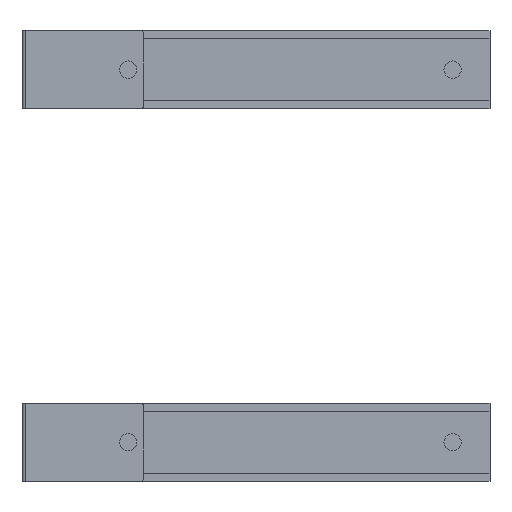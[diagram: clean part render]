
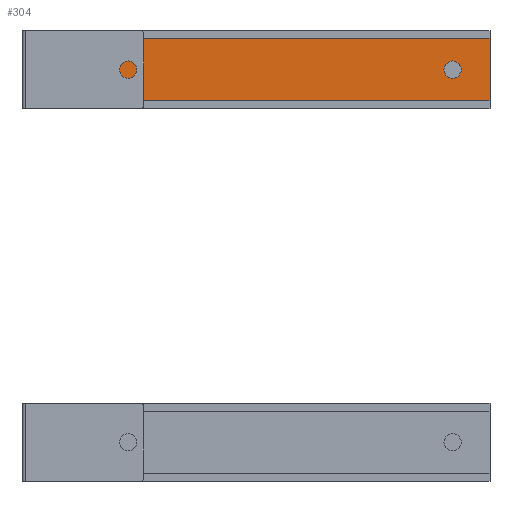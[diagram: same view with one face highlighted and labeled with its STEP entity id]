
A CAD part, left-side view. The second image highlights one B-rep face of the part: STEP entity #304.
In plain terms, the highlighted planar face has unit normal (-1, 0, 0).
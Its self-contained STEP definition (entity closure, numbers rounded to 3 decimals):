
#287 = EDGE_CURVE ( 'NONE', #297, #2582, #1357, .T. ) ;
#290 = EDGE_LOOP ( 'NONE', ( #291, #292 ) ) ;
#291 = ORIENTED_EDGE ( 'NONE', *, *, #865, .F. ) ;
#292 = ORIENTED_EDGE ( 'NONE', *, *, #293, .F. ) ;
#293 = EDGE_CURVE ( 'NONE', #867, #866, #1344, .T. ) ;
#294 = EDGE_LOOP ( 'NONE', ( #299, #300 ) ) ;
#297 = VERTEX_POINT ( 'NONE', #1339 ) ;
#299 = ORIENTED_EDGE ( 'NONE', *, *, #824, .F. ) ;
#300 = ORIENTED_EDGE ( 'NONE', *, *, #301, .F. ) ;
#301 = EDGE_CURVE ( 'NONE', #826, #825, #1337, .T. ) ;
#302 = EDGE_LOOP ( 'NONE', ( #522, #523, #526, #528 ) ) ;
#304 = ADVANCED_FACE ( 'NONE', ( #1332, #1331, #1330 ), #1329, .F. ) ;
#522 = ORIENTED_EDGE ( 'NONE', *, *, #2581, .T. ) ;
#523 = ORIENTED_EDGE ( 'NONE', *, *, #524, .F. ) ;
#524 = EDGE_CURVE ( 'NONE', #525, #2579, #1538, .T. ) ;
#525 = VERTEX_POINT ( 'NONE', #1625 ) ;
#526 = ORIENTED_EDGE ( 'NONE', *, *, #527, .F. ) ;
#527 = EDGE_CURVE ( 'NONE', #297, #525, #1624, .T. ) ;
#528 = ORIENTED_EDGE ( 'NONE', *, *, #287, .T. ) ;
#824 = EDGE_CURVE ( 'NONE', #825, #826, #2687, .T. ) ;
#825 = VERTEX_POINT ( 'NONE', #2682 ) ;
#826 = VERTEX_POINT ( 'NONE', #2681 ) ;
#865 = EDGE_CURVE ( 'NONE', #866, #867, #2778, .T. ) ;
#866 = VERTEX_POINT ( 'NONE', #2773 ) ;
#867 = VERTEX_POINT ( 'NONE', #2772 ) ;
#1324 = DIRECTION ( 'NONE',  ( 0., 1., 0. ) ) ;
#1325 = DIRECTION ( 'NONE',  ( 1., 0., 0. ) ) ;
#1326 = CARTESIAN_POINT ( 'NONE',  ( 320., -222., 244. ) ) ;
#1328 = AXIS2_PLACEMENT_3D ( 'NONE', #1326, #1325, #1324 ) ;
#1329 = PLANE ( 'NONE',  #1328 ) ;
#1330 = FACE_OUTER_BOUND ( 'NONE', #302, .T. ) ;
#1331 = FACE_BOUND ( 'NONE', #294, .T. ) ;
#1332 = FACE_BOUND ( 'NONE', #290, .T. ) ;
#1333 = DIRECTION ( 'NONE',  ( 0., 1., 0. ) ) ;
#1334 = DIRECTION ( 'NONE',  ( -1., 0., 0. ) ) ;
#1335 = CARTESIAN_POINT ( 'NONE',  ( 320., 41., 264. ) ) ;
#1336 = AXIS2_PLACEMENT_3D ( 'NONE', #1335, #1334, #1333 ) ;
#1337 = CIRCLE ( 'NONE', #1336, 5.5 ) ;
#1339 = CARTESIAN_POINT ( 'NONE',  ( 320., -222., 284. ) ) ;
#1340 = DIRECTION ( 'NONE',  ( 0., 1., 0. ) ) ;
#1341 = DIRECTION ( 'NONE',  ( -1., 0., 0. ) ) ;
#1342 = CARTESIAN_POINT ( 'NONE',  ( 320., -198., 264. ) ) ;
#1343 = AXIS2_PLACEMENT_3D ( 'NONE', #1342, #1341, #1340 ) ;
#1344 = CIRCLE ( 'NONE', #1343, 5.5 ) ;
#1349 = DIRECTION ( 'NONE',  ( 0., 1., 0. ) ) ;
#1350 = VECTOR ( 'NONE', #1349, 1000. ) ;
#1351 = CARTESIAN_POINT ( 'NONE',  ( 320., -222., 284. ) ) ;
#1357 = LINE ( 'NONE', #1351, #1350 ) ;
#1538 = LINE ( 'NONE', #1628, #1627 ) ;
#1621 = DIRECTION ( 'NONE',  ( 0., 0., -1. ) ) ;
#1622 = VECTOR ( 'NONE', #1621, 1000. ) ;
#1623 = CARTESIAN_POINT ( 'NONE',  ( 320., -222., 244. ) ) ;
#1624 = LINE ( 'NONE', #1623, #1622 ) ;
#1625 = CARTESIAN_POINT ( 'NONE',  ( 320., -222., 244. ) ) ;
#1626 = DIRECTION ( 'NONE',  ( 0., 1., 0. ) ) ;
#1627 = VECTOR ( 'NONE', #1626, 1000. ) ;
#1628 = CARTESIAN_POINT ( 'NONE',  ( 320., -222., 244. ) ) ;
#2579 = VERTEX_POINT ( 'NONE', #4044 ) ;
#2581 = EDGE_CURVE ( 'NONE', #2582, #2579, #3724, .T. ) ;
#2582 = VERTEX_POINT ( 'NONE', #3730 ) ;
#2681 = CARTESIAN_POINT ( 'NONE',  ( 320., 41., 269.5 ) ) ;
#2682 = CARTESIAN_POINT ( 'NONE',  ( 320., 41., 258.5 ) ) ;
#2683 = DIRECTION ( 'NONE',  ( 0., 1., 0. ) ) ;
#2684 = DIRECTION ( 'NONE',  ( -1., 0., 0. ) ) ;
#2685 = CARTESIAN_POINT ( 'NONE',  ( 320., 41., 264. ) ) ;
#2686 = AXIS2_PLACEMENT_3D ( 'NONE', #2685, #2684, #2683 ) ;
#2687 = CIRCLE ( 'NONE', #2686, 5.5 ) ;
#2772 = CARTESIAN_POINT ( 'NONE',  ( 320., -198., 269.5 ) ) ;
#2773 = CARTESIAN_POINT ( 'NONE',  ( 320., -198., 258.5 ) ) ;
#2774 = DIRECTION ( 'NONE',  ( 0., 1., 0. ) ) ;
#2775 = DIRECTION ( 'NONE',  ( -1., 0., 0. ) ) ;
#2776 = CARTESIAN_POINT ( 'NONE',  ( 320., -198., 264. ) ) ;
#2777 = AXIS2_PLACEMENT_3D ( 'NONE', #2776, #2775, #2774 ) ;
#2778 = CIRCLE ( 'NONE', #2777, 5.5 ) ;
#3724 = LINE ( 'NONE', #3731, #3732 ) ;
#3729 = DIRECTION ( 'NONE',  ( 0., 0., -1. ) ) ;
#3730 = CARTESIAN_POINT ( 'NONE',  ( 320., 70., 284. ) ) ;
#3731 = CARTESIAN_POINT ( 'NONE',  ( 320., 70., 244. ) ) ;
#3732 = VECTOR ( 'NONE', #3729, 1000. ) ;
#4044 = CARTESIAN_POINT ( 'NONE',  ( 320., 70., 244. ) ) ;
